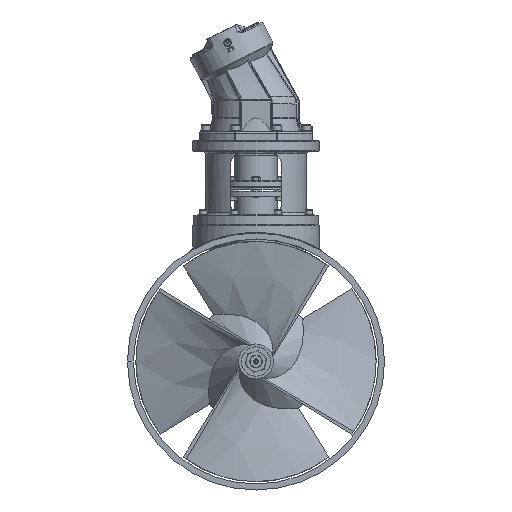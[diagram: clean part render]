
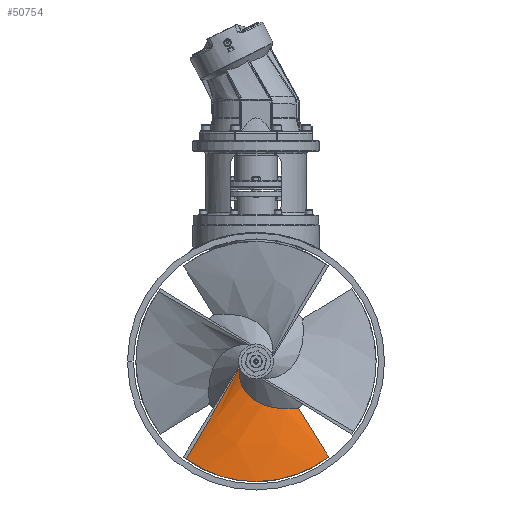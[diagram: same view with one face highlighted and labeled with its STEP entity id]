
A CAD part, left-side view. The second image highlights one B-rep face of the part: STEP entity #50754.
In plain terms, the highlighted free-form (B-spline) face has degree [3, 3] with [4, 4] control points.
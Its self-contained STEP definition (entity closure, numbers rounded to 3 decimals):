
#32=B_SPLINE_SURFACE_WITH_KNOTS('',3,3,((#105405,#105406,#105407,#105408),
(#105409,#105410,#105411,#105412),(#105413,#105414,#105415,#105416),(#105417,
#105418,#105419,#105420)),.UNSPECIFIED.,.F.,.F.,.F.,(4,4),(4,4),(0.,1.),
(0.053,1.),.UNSPECIFIED.);
#8206=FACE_OUTER_BOUND('',#11226,.T.);
#11226=EDGE_LOOP('',(#40181,#40182,#40183,#40184,#40185));
#13939=LINE('',#105404,#16252);
#13940=LINE('',#105452,#16253);
#16252=VECTOR('',#67866,467.882);
#16253=VECTOR('',#67867,462.295);
#17726=B_SPLINE_CURVE_WITH_KNOTS('',3,(#105347,#105348,#105349,#105350,
#105351,#105352,#105353,#105354,#105355,#105356,#105357,#105358,#105359,
#105360),.UNSPECIFIED.,.F.,.F.,(4,2,2,2,2,2,4),(-31.266,-25.494,
-19.457,-14.562,-8.637,-3.457,
0.),.UNSPECIFIED.);
#17729=B_SPLINE_CURVE_WITH_KNOTS('',3,(#105423,#105424,#105425,#105426,
#105427,#105428,#105429,#105430,#105431,#105432,#105433,#105434,#105435),
 .UNSPECIFIED.,.F.,.F.,(4,3,3,3,4),(-53.028,-44.386,
-39.679,-31.629,-27.111),.UNSPECIFIED.);
#17730=B_SPLINE_CURVE_WITH_KNOTS('',3,(#105436,#105437,#105438,#105439,
#105440,#105441,#105442,#105443,#105444,#105445,#105446,#105447,#105448,
#105449,#105450,#105451),.UNSPECIFIED.,.F.,.F.,(4,3,3,3,3,4),(-27.111,
-20.36,-13.975,-8.224,-2.266,
0.),.UNSPECIFIED.);
#21265=VERTEX_POINT('',#105344);
#21266=VERTEX_POINT('',#105346);
#21270=VERTEX_POINT('',#105402);
#21271=VERTEX_POINT('',#105421);
#21272=VERTEX_POINT('',#105422);
#27898=EDGE_CURVE('',#21266,#21265,#17726,.T.);
#27905=EDGE_CURVE('',#21266,#21270,#13939,.T.);
#27906=EDGE_CURVE('',#21271,#21272,#17729,.T.);
#27907=EDGE_CURVE('',#21272,#21270,#17730,.T.);
#27908=EDGE_CURVE('',#21265,#21271,#13940,.T.);
#40181=ORIENTED_EDGE('',*,*,#27906,.T.);
#40182=ORIENTED_EDGE('',*,*,#27907,.T.);
#40183=ORIENTED_EDGE('',*,*,#27905,.F.);
#40184=ORIENTED_EDGE('',*,*,#27898,.T.);
#40185=ORIENTED_EDGE('',*,*,#27908,.T.);
#50754=ADVANCED_FACE('',(#8206),#32,.F.);
#67866=DIRECTION('',(0.,-0.524,-0.852));
#67867=DIRECTION('',(0.,0.507,-0.862));
#105344=CARTESIAN_POINT('',(-388.961,55.611,-19.545));
#105346=CARTESIAN_POINT('',(-236.961,-139.995,-153.475));
#105347=CARTESIAN_POINT('Ctrl Pts',(-236.961,-139.995,
-153.475));
#105348=CARTESIAN_POINT('Ctrl Pts',(-246.962,-123.103,
-155.357));
#105349=CARTESIAN_POINT('Ctrl Pts',(-256.501,-105.947,
-156.257));
#105350=CARTESIAN_POINT('Ctrl Pts',(-275.558,-70.607,
-154.59));
#105351=CARTESIAN_POINT('Ctrl Pts',(-284.937,-52.617,
-151.865));
#105352=CARTESIAN_POINT('Ctrl Pts',(-301.985,-21.221,
-142.116));
#105353=CARTESIAN_POINT('Ctrl Pts',(-309.543,-7.786,
-136.053));
#105354=CARTESIAN_POINT('Ctrl Pts',(-326.632,19.257,-118.367));
#105355=CARTESIAN_POINT('Ctrl Pts',(-336.006,31.919,-106.082));
#105356=CARTESIAN_POINT('Ctrl Pts',(-354.419,49.349,
-78.649));
#105357=CARTESIAN_POINT('Ctrl Pts',(-363.118,54.626,
-64.475));
#105358=CARTESIAN_POINT('Ctrl Pts',(-377.748,57.762,
-39.66));
#105359=CARTESIAN_POINT('Ctrl Pts',(-383.57,57.482,
-29.555));
#105360=CARTESIAN_POINT('Ctrl Pts',(-388.961,55.611,-19.545));
#105402=CARTESIAN_POINT('',(-236.961,-239.699,-315.531));
#105404=CARTESIAN_POINT('',(-236.961,-44.583,1.605));
#105405=CARTESIAN_POINT('Ctrl Pts',(-388.961,55.611,-19.545));
#105406=CARTESIAN_POINT('Ctrl Pts',(-388.961,129.578,-145.329));
#105407=CARTESIAN_POINT('Ctrl Pts',(-388.961,203.546,
-271.112));
#105408=CARTESIAN_POINT('Ctrl Pts',(-388.961,277.513,
-396.895));
#105409=CARTESIAN_POINT('Ctrl Pts',(-338.295,17.875,
-19.545));
#105410=CARTESIAN_POINT('Ctrl Pts',(-338.295,41.391,
-145.329));
#105411=CARTESIAN_POINT('Ctrl Pts',(-338.295,64.907,
-271.112));
#105412=CARTESIAN_POINT('Ctrl Pts',(-338.295,88.422,
-396.895));
#105413=CARTESIAN_POINT('Ctrl Pts',(-287.628,-19.86,
-19.545));
#105414=CARTESIAN_POINT('Ctrl Pts',(-287.628,-46.796,
-145.329));
#105415=CARTESIAN_POINT('Ctrl Pts',(-287.628,-73.732,
-271.112));
#105416=CARTESIAN_POINT('Ctrl Pts',(-287.628,-100.668,
-396.895));
#105417=CARTESIAN_POINT('Ctrl Pts',(-236.961,-57.596,
-19.545));
#105418=CARTESIAN_POINT('Ctrl Pts',(-236.961,-134.983,
-145.329));
#105419=CARTESIAN_POINT('Ctrl Pts',(-236.961,-212.371,
-271.112));
#105420=CARTESIAN_POINT('Ctrl Pts',(-236.961,-289.759,
-396.895));
#105421=CARTESIAN_POINT('',(-388.961,233.675,-322.348));
#105422=CARTESIAN_POINT('',(-315.032,1.605,-396.895));
#105423=CARTESIAN_POINT('Ctrl Pts',(-388.961,233.675,
-322.348));
#105424=CARTESIAN_POINT('Ctrl Pts',(-379.024,211.706,-338.086));
#105425=CARTESIAN_POINT('Ctrl Pts',(-370.075,187.959,
-351.711));
#105426=CARTESIAN_POINT('Ctrl Pts',(-361.609,162.783,
-362.845));
#105427=CARTESIAN_POINT('Ctrl Pts',(-356.998,149.069,
-368.91));
#105428=CARTESIAN_POINT('Ctrl Pts',(-352.549,134.974,-374.215));
#105429=CARTESIAN_POINT('Ctrl Pts',(-348.221,120.637,
-378.703));
#105430=CARTESIAN_POINT('Ctrl Pts',(-340.821,96.123,
-386.375));
#105431=CARTESIAN_POINT('Ctrl Pts',(-333.754,70.844,
-391.685));
#105432=CARTESIAN_POINT('Ctrl Pts',(-326.76,45.148,
-394.509));
#105433=CARTESIAN_POINT('Ctrl Pts',(-322.835,30.723,-396.095));
#105434=CARTESIAN_POINT('Ctrl Pts',(-318.927,16.141,
-396.895));
#105435=CARTESIAN_POINT('Ctrl Pts',(-315.032,1.605,
-396.895));
#105436=CARTESIAN_POINT('Ctrl Pts',(-315.032,1.605,
-396.895));
#105437=CARTESIAN_POINT('Ctrl Pts',(-309.213,-20.114,
-396.895));
#105438=CARTESIAN_POINT('Ctrl Pts',(-303.41,-41.775,
-395.12));
#105439=CARTESIAN_POINT('Ctrl Pts',(-297.484,-63.164,
-391.597));
#105440=CARTESIAN_POINT('Ctrl Pts',(-291.879,-83.393,
-388.265));
#105441=CARTESIAN_POINT('Ctrl Pts',(-286.156,-103.403,
-383.353));
#105442=CARTESIAN_POINT('Ctrl Pts',(-280.245,-122.795,
-376.981));
#105443=CARTESIAN_POINT('Ctrl Pts',(-274.921,-140.26,
-371.242));
#105444=CARTESIAN_POINT('Ctrl Pts',(-269.436,-157.262,
-364.316));
#105445=CARTESIAN_POINT('Ctrl Pts',(-263.669,-173.68,
-356.275));
#105446=CARTESIAN_POINT('Ctrl Pts',(-257.695,-190.691,
-347.943));
#105447=CARTESIAN_POINT('Ctrl Pts',(-251.442,-207.008,
-338.443));
#105448=CARTESIAN_POINT('Ctrl Pts',(-244.771,-222.454,
-327.941));
#105449=CARTESIAN_POINT('Ctrl Pts',(-242.234,-228.327,
-323.947));
#105450=CARTESIAN_POINT('Ctrl Pts',(-239.634,-234.078,
-319.808));
#105451=CARTESIAN_POINT('Ctrl Pts',(-236.961,-239.699,
-315.531));
#105452=CARTESIAN_POINT('',(-388.961,43.174,1.605));
